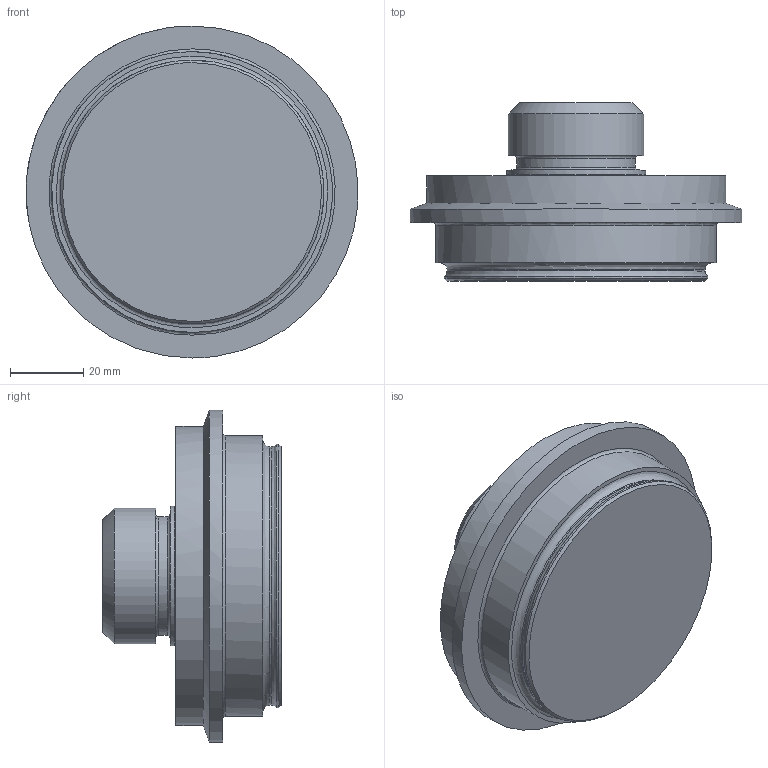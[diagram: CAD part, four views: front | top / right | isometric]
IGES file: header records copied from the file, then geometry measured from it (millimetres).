
Global section: file name: 109295 HI-PRESSURE-2; native system: Autodesk Inventor 2020; preprocessor: unknown; author: H7M44K; date: 20210423.111959; units: inch
Bounding box: 90.87 x 48.77 x 90.91 mm (x, y, z)
Volume: 164245 mm3; surface area: 22169.4 mm2
Topology: 1 solids, 1 shells, 24 faces, 69 edges, 52 vertices
Faces by surface type: bspline 24
